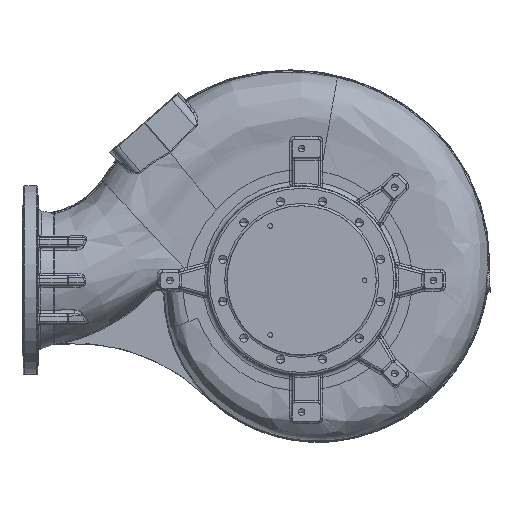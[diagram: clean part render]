
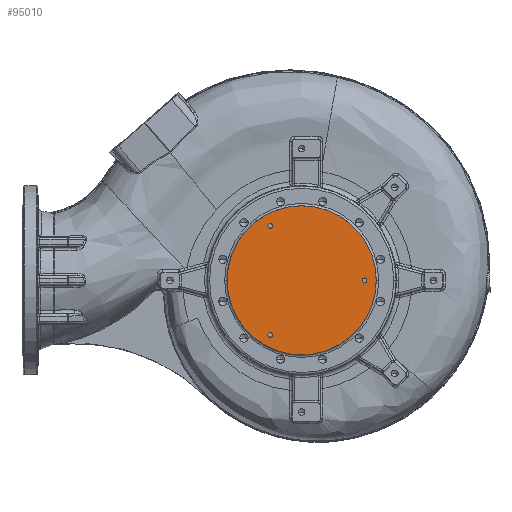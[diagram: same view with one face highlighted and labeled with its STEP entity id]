
A CAD part, front view. The second image highlights one B-rep face of the part: STEP entity #95010.
In plain terms, the highlighted planar face has unit normal (0, -1, 0).
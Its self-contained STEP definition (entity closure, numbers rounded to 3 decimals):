
#403 = AXIS2_PLACEMENT_3D ( 'NONE', #44826, #108330, #53963 ) ;
#679 = FACE_OUTER_BOUND ( 'NONE', #58646, .T. ) ;
#6431 = FACE_BOUND ( 'NONE', #38476, .T. ) ;
#7768 = AXIS2_PLACEMENT_3D ( 'NONE', #52845, #116302, #61966 ) ;
#11605 = VERTEX_POINT ( 'NONE', #75310 ) ;
#13501 = ORIENTED_EDGE ( 'NONE', *, *, #24172, .F. ) ;
#14011 = DIRECTION ( 'NONE',  ( 0., -1., 0. ) ) ;
#17748 = ORIENTED_EDGE ( 'NONE', *, *, #101291, .T. ) ;
#20073 = AXIS2_PLACEMENT_3D ( 'NONE', #82908, #28476, #91971 ) ;
#21058 = VERTEX_POINT ( 'NONE', #39984 ) ;
#22987 = AXIS2_PLACEMENT_3D ( 'NONE', #44136, #107638, #53282 ) ;
#23097 = ORIENTED_EDGE ( 'NONE', *, *, #66846, .F. ) ;
#23754 = CARTESIAN_POINT ( 'NONE',  ( 532.5, 0., 116.913 ) ) ;
#24172 = EDGE_CURVE ( 'NONE', #49841, #49275, #35025, .T. ) ;
#26200 = AXIS2_PLACEMENT_3D ( 'NONE', #68452, #14011, #77571 ) ;
#27897 = CIRCLE ( 'NONE', #26200, 5.1 ) ;
#28476 = DIRECTION ( 'NONE',  ( 0., -1., 0. ) ) ;
#30825 = ORIENTED_EDGE ( 'NONE', *, *, #102003, .T. ) ;
#30965 = EDGE_LOOP ( 'NONE', ( #58229, #69652 ) ) ;
#32873 = DIRECTION ( 'NONE',  ( -1., 0., 0. ) ) ;
#33134 = EDGE_CURVE ( 'NONE', #60267, #110769, #27897, .T. ) ;
#33236 = DIRECTION ( 'NONE',  ( 0., -1., 0. ) ) ;
#35025 = CIRCLE ( 'NONE', #45539, 5.1 ) ;
#37056 = CARTESIAN_POINT ( 'NONE',  ( 537.6, 0., -116.913 ) ) ;
#37404 = CIRCLE ( 'NONE', #7768, 5.1 ) ;
#38476 = EDGE_LOOP ( 'NONE', ( #23097, #13501 ) ) ;
#39748 = DIRECTION ( 'NONE',  ( 0., -1., 0. ) ) ;
#39984 = CARTESIAN_POINT ( 'NONE',  ( 740.1, 0., 0. ) ) ;
#42826 = AXIS2_PLACEMENT_3D ( 'NONE', #23754, #87265, #32873 ) ;
#44136 = CARTESIAN_POINT ( 'NONE',  ( 600., 0., 0. ) ) ;
#44826 = CARTESIAN_POINT ( 'NONE',  ( 735., 0., 0. ) ) ;
#45539 = AXIS2_PLACEMENT_3D ( 'NONE', #52295, #115774, #61429 ) ;
#46307 = CARTESIAN_POINT ( 'NONE',  ( 527.4, 0., -116.913 ) ) ;
#46648 = CARTESIAN_POINT ( 'NONE',  ( 440., 0., 0. ) ) ;
#48348 = CIRCLE ( 'NONE', #20073, 5.1 ) ;
#48420 = VERTEX_POINT ( 'NONE', #90188 ) ;
#49275 = VERTEX_POINT ( 'NONE', #83951 ) ;
#49841 = VERTEX_POINT ( 'NONE', #111459 ) ;
#50800 = EDGE_LOOP ( 'NONE', ( #55147, #57104 ) ) ;
#52295 = CARTESIAN_POINT ( 'NONE',  ( 532.5, 0., 116.913 ) ) ;
#52845 = CARTESIAN_POINT ( 'NONE',  ( 532.5, 0., -116.913 ) ) ;
#53282 = DIRECTION ( 'NONE',  ( -1., 0., 0. ) ) ;
#53963 = DIRECTION ( 'NONE',  ( -1., 0., 0. ) ) ;
#55147 = ORIENTED_EDGE ( 'NONE', *, *, #102715, .F. ) ;
#57104 = ORIENTED_EDGE ( 'NONE', *, *, #33134, .F. ) ;
#57593 = AXIS2_PLACEMENT_3D ( 'NONE', #65584, #39748, #103265 ) ;
#58229 = ORIENTED_EDGE ( 'NONE', *, *, #80847, .F. ) ;
#58646 = EDGE_LOOP ( 'NONE', ( #17748, #30825 ) ) ;
#60267 = VERTEX_POINT ( 'NONE', #37056 ) ;
#61429 = DIRECTION ( 'NONE',  ( -1., 0., 0. ) ) ;
#61966 = DIRECTION ( 'NONE',  ( -1., 0., 0. ) ) ;
#63807 = CIRCLE ( 'NONE', #42826, 5.1 ) ;
#65584 = CARTESIAN_POINT ( 'NONE',  ( 600., 0., 0. ) ) ;
#66846 = EDGE_CURVE ( 'NONE', #49275, #49841, #63807, .T. ) ;
#68452 = CARTESIAN_POINT ( 'NONE',  ( 532.5, 0., -116.913 ) ) ;
#68816 = CIRCLE ( 'NONE', #111991, 160. ) ;
#69652 = ORIENTED_EDGE ( 'NONE', *, *, #95326, .F. ) ;
#75310 = CARTESIAN_POINT ( 'NONE',  ( 760., 0., 0. ) ) ;
#77571 = DIRECTION ( 'NONE',  ( -1., 0., 0. ) ) ;
#80847 = EDGE_CURVE ( 'NONE', #48420, #21058, #48348, .T. ) ;
#82908 = CARTESIAN_POINT ( 'NONE',  ( 735., 0., 0. ) ) ;
#83951 = CARTESIAN_POINT ( 'NONE',  ( 527.4, 0., 116.913 ) ) ;
#85313 = CIRCLE ( 'NONE', #22987, 160. ) ;
#85991 = CIRCLE ( 'NONE', #403, 5.1 ) ;
#87265 = DIRECTION ( 'NONE',  ( 0., -1., 0. ) ) ;
#87622 = CARTESIAN_POINT ( 'NONE',  ( 600., 0., 0. ) ) ;
#90188 = CARTESIAN_POINT ( 'NONE',  ( 729.9, 0., 0. ) ) ;
#91971 = DIRECTION ( 'NONE',  ( -1., 0., 0. ) ) ;
#94492 = FACE_BOUND ( 'NONE', #30965, .T. ) ;
#95010 = ADVANCED_FACE ( 'NONE', ( #97327, #6431, #94492, #679 ), #102865, .T. ) ;
#95326 = EDGE_CURVE ( 'NONE', #21058, #48420, #85991, .T. ) ;
#96704 = DIRECTION ( 'NONE',  ( -1., 0., 0. ) ) ;
#97327 = FACE_BOUND ( 'NONE', #50800, .T. ) ;
#101291 = EDGE_CURVE ( 'NONE', #117854, #11605, #85313, .T. ) ;
#102003 = EDGE_CURVE ( 'NONE', #11605, #117854, #68816, .T. ) ;
#102715 = EDGE_CURVE ( 'NONE', #110769, #60267, #37404, .T. ) ;
#102865 = PLANE ( 'NONE',  #57593 ) ;
#103265 = DIRECTION ( 'NONE',  ( -1., 0., 0. ) ) ;
#107638 = DIRECTION ( 'NONE',  ( 0., -1., 0. ) ) ;
#108330 = DIRECTION ( 'NONE',  ( 0., -1., 0. ) ) ;
#110769 = VERTEX_POINT ( 'NONE', #46307 ) ;
#111459 = CARTESIAN_POINT ( 'NONE',  ( 537.6, 0., 116.913 ) ) ;
#111991 = AXIS2_PLACEMENT_3D ( 'NONE', #87622, #33236, #96704 ) ;
#115774 = DIRECTION ( 'NONE',  ( 0., -1., 0. ) ) ;
#116302 = DIRECTION ( 'NONE',  ( 0., -1., 0. ) ) ;
#117854 = VERTEX_POINT ( 'NONE', #46648 ) ;
